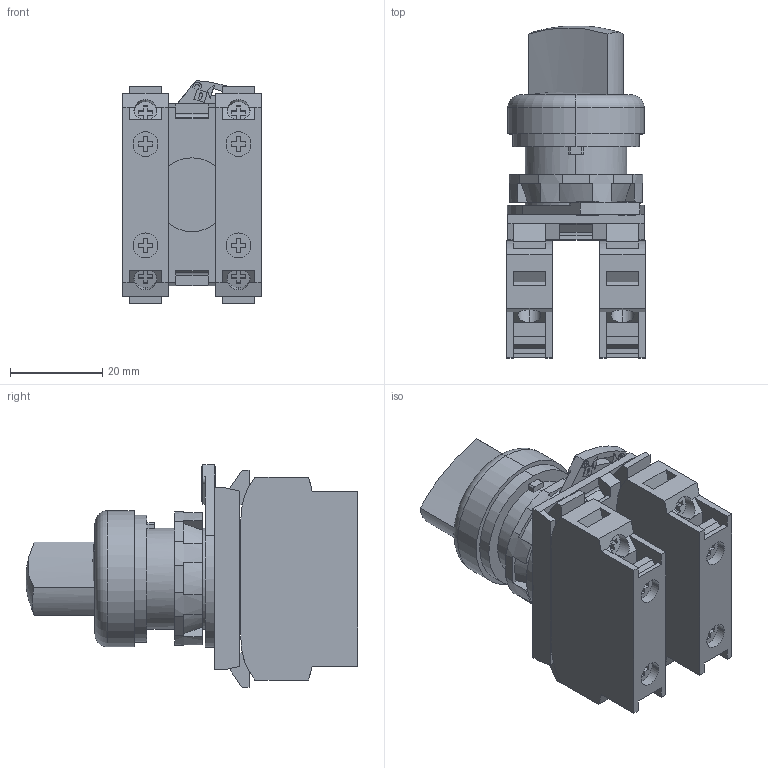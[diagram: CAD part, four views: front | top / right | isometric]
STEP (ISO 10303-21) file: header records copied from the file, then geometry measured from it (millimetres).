
FILE_DESCRIPTION (( 'STEP AP214' ), '1' );
FILE_NAME ('ZF_STEP_E2_AC-DXBC2235.step', '2015-02-02T14:36:29', ( 'utente' ), ( 'Microsoft' ), 'SwSTEP 2.0', 'SolidWorks 2014', '' );
FILE_SCHEMA (( 'AUTOMOTIVE_DESIGN' ));
Length unit declared in the file: millimetre
Products named in the file (8): ZF_STEP_E2_AC-DXBC2200; ZF_STEP_E2_CP20GxV1_A12; ZF_STEP_E2_CP02GxV1_A12; ZF_STEP_E2_1BAC11_A10; ZF_STEP_E2_xSE14xVxxxxx_A10; ZF_STEP_VE_GFx2xA_21008; ZF_STEP_E2_xSE14xVxxx_A10; ZF_STEP_E2_AC-DXBC2235
Assembly tree (7 placements, depth 4):
  ZF_STEP_E2_AC-DXBC2235
    ZF_STEP_E2_AC-DXBC2200
      ZF_STEP_E2_xSE14xVxxxxx_A10
        ZF_STEP_E2_xSE14xVxxx_A10
        ZF_STEP_VE_GFx2xA_21008
      ZF_STEP_E2_1BAC11_A10
      ZF_STEP_E2_CP02GxV1_A12
      ZF_STEP_E2_CP20GxV1_A12
Bounding box: 30.1 x 72.07 x 48.38 mm (x, y, z)
Volume: 40936.6 mm3; surface area: 19908.5 mm2
Topology: 6 solids, 6 shells, 568 faces, 1547 edges, 1027 vertices
Faces by surface type: plane 473, cylinder 81, cone 9, torus 3, sphere 2
Entity records: 18347 total; most frequent: CARTESIAN_POINT 3300, ORIENTED_EDGE 3094, DIRECTION 2887, EDGE_CURVE 1547, LINE 1295, VECTOR 1295, VERTEX_POINT 1027, AXIS2_PLACEMENT_3D 796
